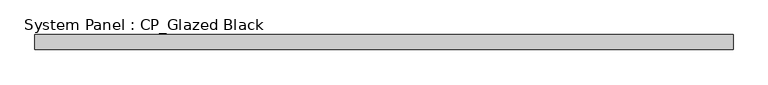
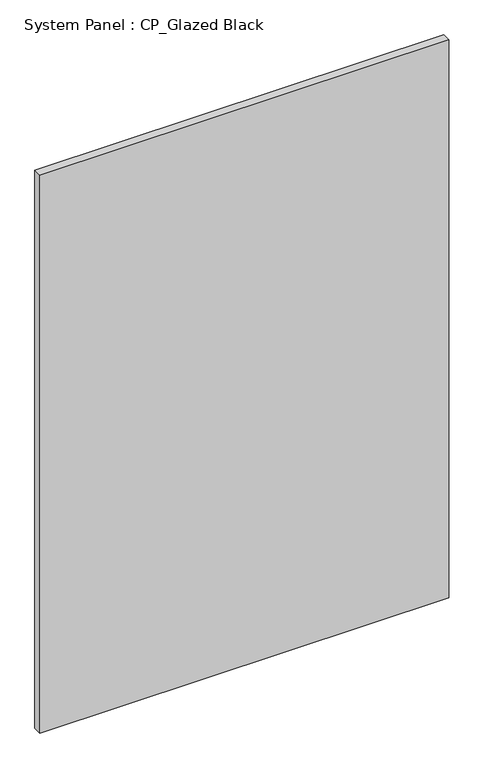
"""IFC4 building model written with IfcOpenShell, lengths in millimetres: plate geometry, System Panel : CP_Glazed Black."""

from ifc_helpers import new_model, si_unit, origin, origin_with_axes, place, context, project, spatial, polyline, outline, extrude, source, transform, mapped, element, save


def system_panel_cp_glazed_black_85bd2a6d(model_context):
    return source(origin(), model_context, "Body", "SweptSolid", [
        extrude(outline(polyline([(589.5655708, 19.05), (-589.5655708, 19.05), (-589.5655708, 44.45), (589.5655708, 44.45), (589.5655708, 19.05)])), origin_with_axes(), (0.0, 0.0, 1.0), 1701.8),
    ])


if __name__ == "__main__":
    model = new_model("IFC4")
    model_context = context("Model", 3, world=origin())
    ifc_project = project(units=[si_unit("LENGTHUNIT", "METRE", prefix="MILLI")], contexts=[model_context])
    site = spatial("IfcSite", under=ifc_project)
    building = spatial("IfcBuilding", under=site)
    placement = place(None, origin())
    system_panel_cp_glazed_black_shape = system_panel_cp_glazed_black_85bd2a6d(model_context)
    element("IfcPlate", 1, ObjectType="System Panel : CP_Glazed Black", at=placement, inside=building, context=model_context, shape_type="MappedRepresentation", body=[
        mapped(system_panel_cp_glazed_black_shape, transform((0.0, 0.0, 0.0), x_axis=(1.0, 0.0, 0.0), y_axis=(0.0, 1.0, 0.0), z_axis=(0.0, 0.0, 1.0))),
    ])
    save(model, "model.ifc")
